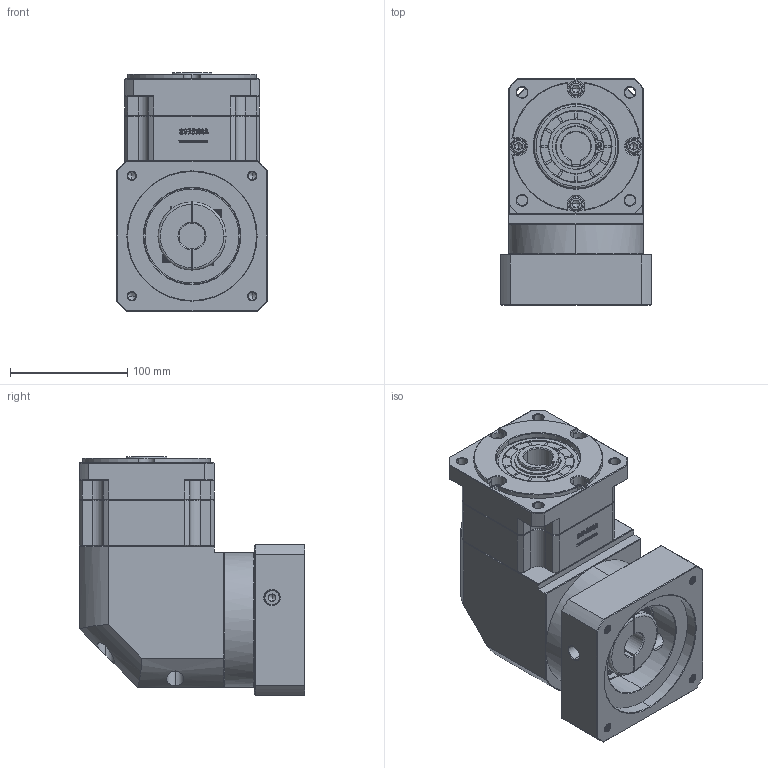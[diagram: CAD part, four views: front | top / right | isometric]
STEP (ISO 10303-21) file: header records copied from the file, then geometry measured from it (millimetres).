
FILE_DESCRIPTION (( 'STEP AP214' ), '1' );
FILE_NAME ('ZBR115A-K25-L1-22-110-145-M8.step', '2023-03-03T05:05:32', ( '' ), ( 'Microsoft' ), 'SwSTEP 2.0', 'SolidWorks 2016', '' );
FILE_SCHEMA (( 'AUTOMOTIVE_DESIGN' ));
Length unit declared in the file: millimetre
Products named in the file (1): ZBR115A-K25-L1-22-110-145-M8
Bounding box: 128 x 192.4 x 203 mm (x, y, z)
Volume: 2996664 mm3; surface area: 252077.3 mm2
Topology: 6 solids, 6 shells, 2927 faces, 7770 edges, 4989 vertices
Faces by surface type: plane 1552, bspline 598, cylinder 406, cone 363, torus 8
Entity records: 156432 total; most frequent: CARTESIAN_POINT 56178, ORIENTED_EDGE 15484, DIRECTION 11754, EDGE_CURVE 7742, VECTOR 5254, LINE 5254, VERTEX_POINT 4989, AXIS2_PLACEMENT_3D 3250
